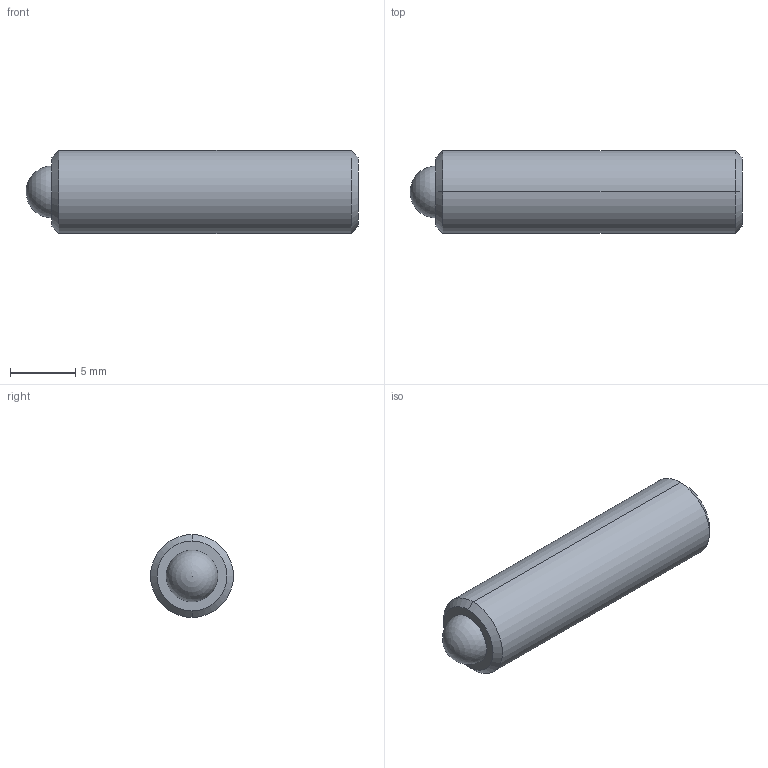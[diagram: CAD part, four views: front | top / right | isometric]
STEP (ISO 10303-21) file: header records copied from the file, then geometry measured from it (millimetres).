
FILE_DESCRIPTION (( 'STEP AP214' ), '1' );
FILE_NAME ('TS250-80-1000.STEP', '2013-02-11T17:31:32', ( 'workpc' ), ( 'Microsoft' ), 'SwSTEP 2.0', 'SolidWorks 2013', '' );
FILE_SCHEMA (( 'AUTOMOTIVE_DESIGN' ));
Length unit declared in the file: inch
Products named in the file (1): TS250-80-1000
Bounding box: 25.4 x 6.35 x 6.35 mm (x, y, z)
Volume: 733.7 mm3; surface area: 611 mm2
Topology: 2 solids, 2 shells, 20 faces, 45 edges, 29 vertices
Faces by surface type: plane 10, cylinder 4, cone 4, sphere 2
Entity records: 599 total; most frequent: DIRECTION 96, CARTESIAN_POINT 87, ORIENTED_EDGE 80, EDGE_CURVE 40, AXIS2_PLACEMENT_3D 35, VERTEX_POINT 26, LINE 26, VECTOR 26
